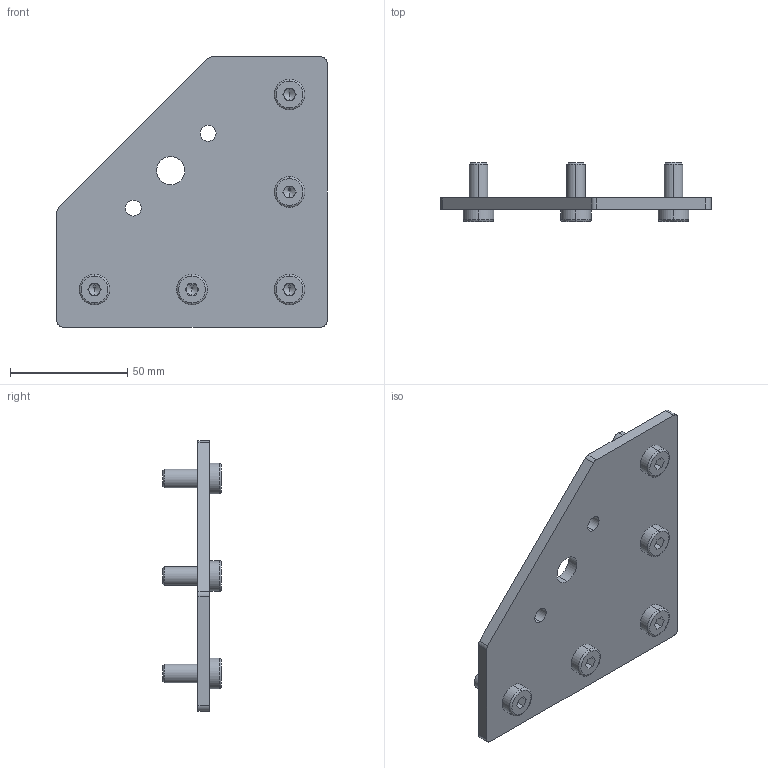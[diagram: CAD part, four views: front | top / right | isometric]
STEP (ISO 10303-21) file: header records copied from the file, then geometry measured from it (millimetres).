
FILE_DESCRIPTION (( 'STEP AP214' ), '1' );
FILE_NAME ('1.5050 Sisäkulmakiinnike M12 säätöjalalle.STEP', '2025-09-16T07:31:14', ( '' ), ( '' ), 'SwSTEP 2.0', 'SolidWorks 2025', '' );
FILE_SCHEMA (( 'AUTOMOTIVE_DESIGN' ));
Length unit declared in the file: millimetre
Products named in the file (1): 1.5050 Sisäkulmakiinnike M12 säätöjalalle
Bounding box: 115 x 25 x 115 mm (x, y, z)
Volume: 61028.9 mm3; surface area: 29498.9 mm2
Topology: 6 solids, 6 shells, 163 faces, 368 edges, 217 vertices
Faces by surface type: plane 82, cylinder 41, cone 20, torus 20
Entity records: 6347 total; most frequent: DIRECTION 848, CARTESIAN_POINT 739, ORIENTED_EDGE 716, EDGE_CURVE 358, AXIS2_PLACEMENT_3D 326, VERTEX_POINT 217, LINE 196, VECTOR 196
